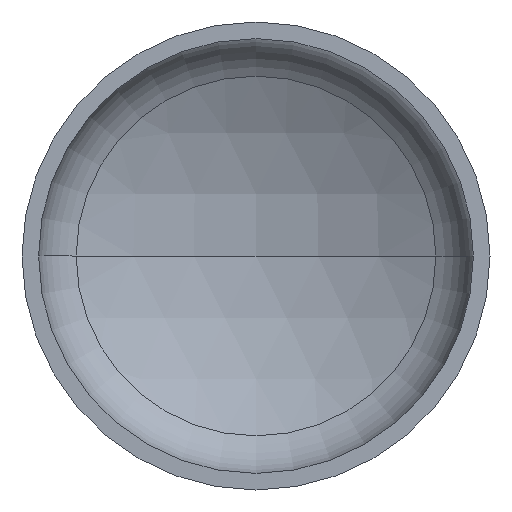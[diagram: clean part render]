
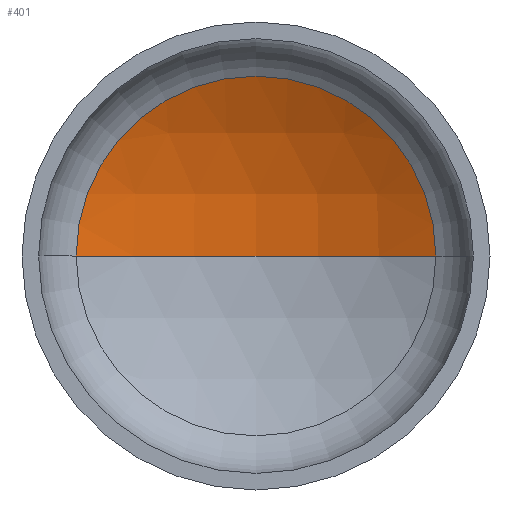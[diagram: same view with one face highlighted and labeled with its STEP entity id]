
A CAD part, front view. The second image highlights one B-rep face of the part: STEP entity #401.
In plain terms, the highlighted spherical face has radius 880 mm.
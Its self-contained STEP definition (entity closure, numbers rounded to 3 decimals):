
#4 = ORIENTED_EDGE ( 'NONE', *, *, #62, .T. ) ;
#23 = AXIS2_PLACEMENT_3D ( 'NONE', #110, #311, #155 ) ;
#25 = ORIENTED_EDGE ( 'NONE', *, *, #66, .F. ) ;
#27 = AXIS2_PLACEMENT_3D ( 'NONE', #192, #361, #218 ) ;
#28 = AXIS2_PLACEMENT_3D ( 'NONE', #286, #109, #310 ) ;
#61 = EDGE_CURVE ( 'NONE', #146, #89, #121, .T. ) ;
#62 = EDGE_CURVE ( 'NONE', #143, #146, #396, .T. ) ;
#66 = EDGE_CURVE ( 'NONE', #143, #89, #104, .T. ) ;
#71 = CARTESIAN_POINT ( 'NONE',  ( -422.648, 269.109, 0. ) ) ;
#72 = CARTESIAN_POINT ( 'NONE',  ( 422.648, 269.109, 0. ) ) ;
#85 = DIRECTION ( 'NONE',  ( 0., 0., -1. ) ) ;
#89 = VERTEX_POINT ( 'NONE', #71 ) ;
#104 = CIRCLE ( 'NONE', #23, 880. ) ;
#109 = DIRECTION ( 'NONE',  ( 0., -1., 0. ) ) ;
#110 = CARTESIAN_POINT ( 'NONE',  ( 0., -502.751, 0. ) ) ;
#121 = CIRCLE ( 'NONE', #28, 422.648 ) ;
#138 = ORIENTED_EDGE ( 'NONE', *, *, #61, .T. ) ;
#143 = VERTEX_POINT ( 'NONE', #158 ) ;
#146 = VERTEX_POINT ( 'NONE', #72 ) ;
#155 = DIRECTION ( 'NONE',  ( 1., 0., 0. ) ) ;
#156 = EDGE_LOOP ( 'NONE', ( #25, #4, #138 ) ) ;
#158 = CARTESIAN_POINT ( 'NONE',  ( 0., 377.249, 0. ) ) ;
#192 = CARTESIAN_POINT ( 'NONE',  ( 0., -502.751, 0. ) ) ;
#218 = DIRECTION ( 'NONE',  ( -1., 0., 0. ) ) ;
#274 = SPHERICAL_SURFACE ( 'NONE', #287, 880. ) ;
#286 = CARTESIAN_POINT ( 'NONE',  ( 0., 269.109, 0. ) ) ;
#287 = AXIS2_PLACEMENT_3D ( 'NONE', #347, #85, #370 ) ;
#310 = DIRECTION ( 'NONE',  ( 1., 0., 0. ) ) ;
#311 = DIRECTION ( 'NONE',  ( 0., 0., 1. ) ) ;
#347 = CARTESIAN_POINT ( 'NONE',  ( 0., -502.751, 0. ) ) ;
#361 = DIRECTION ( 'NONE',  ( 0., 0., -1. ) ) ;
#370 = DIRECTION ( 'NONE',  ( -1., 0., 0. ) ) ;
#392 = FACE_OUTER_BOUND ( 'NONE', #156, .T. ) ;
#396 = CIRCLE ( 'NONE', #27, 880. ) ;
#401 = ADVANCED_FACE ( 'NONE', ( #392 ), #274, .F. ) ;
